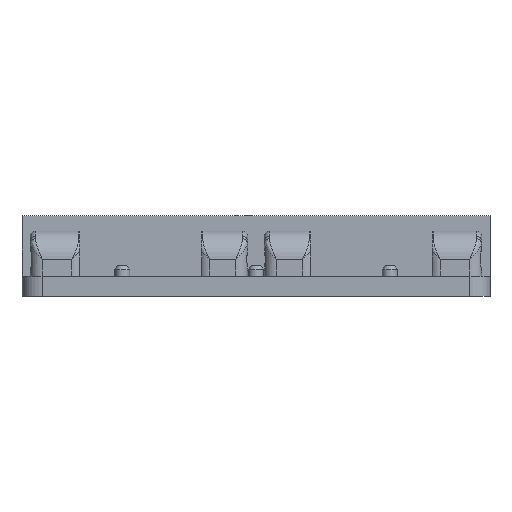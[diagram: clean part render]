
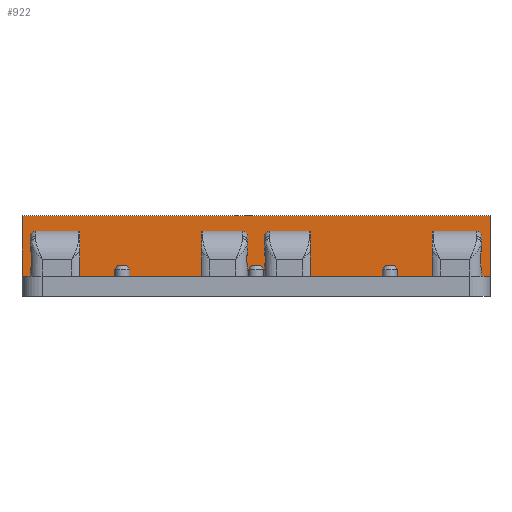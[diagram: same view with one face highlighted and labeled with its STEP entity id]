
A CAD part, front view. The second image highlights one B-rep face of the part: STEP entity #922.
In plain terms, the highlighted planar face has unit normal (0, -1, 0).
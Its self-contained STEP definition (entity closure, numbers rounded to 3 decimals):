
#24 = VERTEX_POINT('',#25);
#25 = CARTESIAN_POINT('',(-227.25,-85.57,-7.25));
#89 = VERTEX_POINT('',#90);
#90 = CARTESIAN_POINT('',(-157.25,-85.57,-7.25));
#96 = EDGE_CURVE('',#89,#24,#97,.T.);
#97 = LINE('',#98,#99);
#98 = CARTESIAN_POINT('',(-227.25,-85.57,-7.25));
#99 = VECTOR('',#100,1.);
#100 = DIRECTION('',(-1.,-0.,0.));
#922 = ADVANCED_FACE('',(#923),#948,.F.);
#923 = FACE_BOUND('',#924,.F.);
#924 = EDGE_LOOP('',(#925,#926,#934,#942));
#925 = ORIENTED_EDGE('',*,*,#96,.T.);
#926 = ORIENTED_EDGE('',*,*,#927,.T.);
#927 = EDGE_CURVE('',#24,#928,#930,.T.);
#928 = VERTEX_POINT('',#929);
#929 = CARTESIAN_POINT('',(-227.25,-85.57,1.8));
#930 = LINE('',#931,#932);
#931 = CARTESIAN_POINT('',(-227.25,-85.57,-10.25));
#932 = VECTOR('',#933,1.);
#933 = DIRECTION('',(0.,0.,1.));
#934 = ORIENTED_EDGE('',*,*,#935,.T.);
#935 = EDGE_CURVE('',#928,#936,#938,.T.);
#936 = VERTEX_POINT('',#937);
#937 = CARTESIAN_POINT('',(-157.25,-85.57,1.8));
#938 = LINE('',#939,#940);
#939 = CARTESIAN_POINT('',(-227.25,-85.57,1.8));
#940 = VECTOR('',#941,1.);
#941 = DIRECTION('',(1.,0.,-0.));
#942 = ORIENTED_EDGE('',*,*,#943,.F.);
#943 = EDGE_CURVE('',#89,#936,#944,.T.);
#944 = LINE('',#945,#946);
#945 = CARTESIAN_POINT('',(-157.25,-85.57,-10.25));
#946 = VECTOR('',#947,1.);
#947 = DIRECTION('',(0.,0.,1.));
#948 = PLANE('',#949);
#949 = AXIS2_PLACEMENT_3D('',#950,#951,#952);
#950 = CARTESIAN_POINT('',(-227.25,-85.57,-10.25));
#951 = DIRECTION('',(-0.,1.,0.));
#952 = DIRECTION('',(0.,0.,1.));
